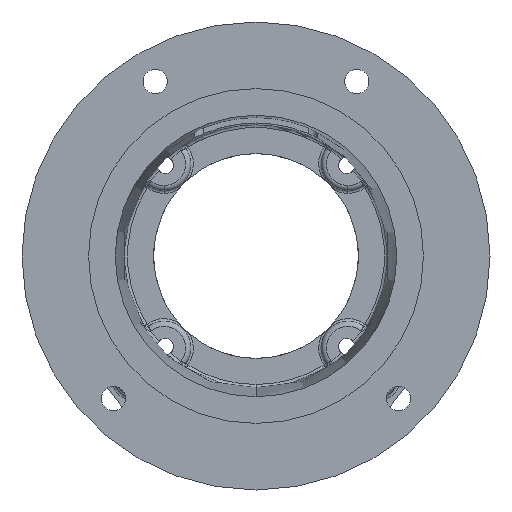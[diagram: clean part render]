
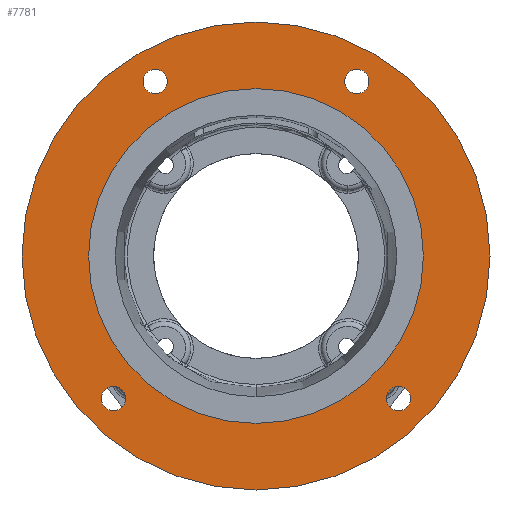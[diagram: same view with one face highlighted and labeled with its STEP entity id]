
A CAD part, front view. The second image highlights one B-rep face of the part: STEP entity #7781.
In plain terms, the highlighted planar face has unit normal (0, -1, 0).
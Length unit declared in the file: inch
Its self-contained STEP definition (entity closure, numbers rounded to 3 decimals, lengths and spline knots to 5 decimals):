
#98 = AXIS2_PLACEMENT_3D ( 'NONE', #10921, #5443, #11863 ) ;
#481 = EDGE_CURVE ( 'NONE', #4288, #10618, #7916, .T. ) ;
#601 = DIRECTION ( 'NONE',  ( 0., 0., -1. ) ) ;
#612 = CARTESIAN_POINT ( 'NONE',  ( 1.9375, 0., 3.35585 ) ) ;
#662 = EDGE_CURVE ( 'NONE', #7609, #9618, #11326, .T. ) ;
#704 = DIRECTION ( 'NONE',  ( 0., -1., 0. ) ) ;
#877 = CIRCLE ( 'NONE', #1867, 0.23438 ) ;
#1148 = CARTESIAN_POINT ( 'NONE',  ( 2.74004, 0., -2.74004 ) ) ;
#1320 = CARTESIAN_POINT ( 'NONE',  ( 2.74004, 0., -2.50566 ) ) ;
#1867 = AXIS2_PLACEMENT_3D ( 'NONE', #10616, #5131, #11540 ) ;
#1946 = VERTEX_POINT ( 'NONE', #2508 ) ;
#2005 = CARTESIAN_POINT ( 'NONE',  ( -2.74004, 0., -2.74004 ) ) ;
#2039 = CIRCLE ( 'NONE', #11536, 4.5 ) ;
#2061 = CIRCLE ( 'NONE', #4069, 0.23438 ) ;
#2066 = DIRECTION ( 'NONE',  ( 0., 0., -1. ) ) ;
#2311 = EDGE_LOOP ( 'NONE', ( #2607, #8343 ) ) ;
#2350 = FACE_BOUND ( 'NONE', #3852, .T. ) ;
#2458 = DIRECTION ( 'NONE',  ( 0., 0., -1. ) ) ;
#2502 = DIRECTION ( 'NONE',  ( 0., -1., 0. ) ) ;
#2508 = CARTESIAN_POINT ( 'NONE',  ( 0., 0., 4.5 ) ) ;
#2522 = CARTESIAN_POINT ( 'NONE',  ( 2.74004, 0., -2.74004 ) ) ;
#2607 = ORIENTED_EDGE ( 'NONE', *, *, #6028, .F. ) ;
#2724 = ORIENTED_EDGE ( 'NONE', *, *, #8567, .T. ) ;
#2781 = CARTESIAN_POINT ( 'NONE',  ( 0., 0., -4.5 ) ) ;
#2915 = DIRECTION ( 'NONE',  ( 0., -1., 0. ) ) ;
#2916 = FACE_BOUND ( 'NONE', #3012, .T. ) ;
#2928 = DIRECTION ( 'NONE',  ( 0., 0., -1. ) ) ;
#2980 = EDGE_LOOP ( 'NONE', ( #11834, #2724 ) ) ;
#2985 = CARTESIAN_POINT ( 'NONE',  ( -1.9375, 0., 3.35585 ) ) ;
#3012 = EDGE_LOOP ( 'NONE', ( #6327, #6673 ) ) ;
#3104 = EDGE_CURVE ( 'NONE', #8078, #6787, #8295, .T. ) ;
#3194 = EDGE_CURVE ( 'NONE', #8145, #9586, #8018, .T. ) ;
#3228 = CARTESIAN_POINT ( 'NONE',  ( 1.9375, 0., 3.35585 ) ) ;
#3485 = DIRECTION ( 'NONE',  ( 0., -1., 0. ) ) ;
#3621 = CIRCLE ( 'NONE', #9539, 3.2195 ) ;
#3700 = EDGE_CURVE ( 'NONE', #9618, #7609, #11726, .T. ) ;
#3789 = CIRCLE ( 'NONE', #4368, 0.23438 ) ;
#3852 = EDGE_LOOP ( 'NONE', ( #9351, #7876 ) ) ;
#4069 = AXIS2_PLACEMENT_3D ( 'NONE', #3228, #9627, #4131 ) ;
#4131 = DIRECTION ( 'NONE',  ( 0., 0., -1. ) ) ;
#4269 = VERTEX_POINT ( 'NONE', #8218 ) ;
#4288 = VERTEX_POINT ( 'NONE', #11662 ) ;
#4296 = CARTESIAN_POINT ( 'NONE',  ( 1.9375, 0., 3.59022 ) ) ;
#4368 = AXIS2_PLACEMENT_3D ( 'NONE', #8411, #2915, #9312 ) ;
#4478 = DIRECTION ( 'NONE',  ( 0., 0., -1. ) ) ;
#4784 = FACE_BOUND ( 'NONE', #11779, .T. ) ;
#4856 = CARTESIAN_POINT ( 'NONE',  ( 2.74004, 0., -2.97441 ) ) ;
#5131 = DIRECTION ( 'NONE',  ( 0., -1., 0. ) ) ;
#5279 = DIRECTION ( 'NONE',  ( 0., 1., 0. ) ) ;
#5443 = DIRECTION ( 'NONE',  ( 0., -1., 0. ) ) ;
#5449 = AXIS2_PLACEMENT_3D ( 'NONE', #2985, #2502, #2458 ) ;
#5890 = AXIS2_PLACEMENT_3D ( 'NONE', #1148, #7555, #2066 ) ;
#6028 = EDGE_CURVE ( 'NONE', #6787, #8078, #3789, .T. ) ;
#6105 = DIRECTION ( 'NONE',  ( 0., -1., 0. ) ) ;
#6119 = AXIS2_PLACEMENT_3D ( 'NONE', #6202, #704, #7117 ) ;
#6154 = AXIS2_PLACEMENT_3D ( 'NONE', #2522, #6708, #4478 ) ;
#6202 = CARTESIAN_POINT ( 'NONE',  ( 0., 0., 0. ) ) ;
#6327 = ORIENTED_EDGE ( 'NONE', *, *, #3700, .F. ) ;
#6673 = ORIENTED_EDGE ( 'NONE', *, *, #662, .F. ) ;
#6708 = DIRECTION ( 'NONE',  ( 0., -1., 0. ) ) ;
#6780 = DIRECTION ( 'NONE',  ( 0., -1., 0. ) ) ;
#6787 = VERTEX_POINT ( 'NONE', #8199 ) ;
#6818 = CARTESIAN_POINT ( 'NONE',  ( -1.9375, 0., 3.59022 ) ) ;
#6824 = VERTEX_POINT ( 'NONE', #2781 ) ;
#7095 = EDGE_CURVE ( 'NONE', #9586, #8145, #2061, .T. ) ;
#7117 = DIRECTION ( 'NONE',  ( 0., 0., -1. ) ) ;
#7170 = AXIS2_PLACEMENT_3D ( 'NONE', #2005, #8423, #2928 ) ;
#7221 = FACE_BOUND ( 'NONE', #2311, .T. ) ;
#7350 = EDGE_CURVE ( 'NONE', #6824, #1946, #7960, .T. ) ;
#7555 = DIRECTION ( 'NONE',  ( 0., -1., 0. ) ) ;
#7609 = VERTEX_POINT ( 'NONE', #1320 ) ;
#7721 = DIRECTION ( 'NONE',  ( 0., 0., -1. ) ) ;
#7781 = ADVANCED_FACE ( 'NONE', ( #7221, #2350, #2916, #4784, #11809, #9359 ), #8925, .F. ) ;
#7876 = ORIENTED_EDGE ( 'NONE', *, *, #3194, .F. ) ;
#7916 = CIRCLE ( 'NONE', #6119, 3.2195 ) ;
#7924 = AXIS2_PLACEMENT_3D ( 'NONE', #8885, #5279, #11692 ) ;
#7960 = CIRCLE ( 'NONE', #98, 4.5 ) ;
#8018 = CIRCLE ( 'NONE', #10961, 0.23438 ) ;
#8078 = VERTEX_POINT ( 'NONE', #6818 ) ;
#8087 = VERTEX_POINT ( 'NONE', #9585 ) ;
#8145 = VERTEX_POINT ( 'NONE', #4296 ) ;
#8199 = CARTESIAN_POINT ( 'NONE',  ( -1.9375, 0., 3.12147 ) ) ;
#8218 = CARTESIAN_POINT ( 'NONE',  ( -2.74004, 0., -2.97441 ) ) ;
#8295 = CIRCLE ( 'NONE', #5449, 0.23438 ) ;
#8334 = CIRCLE ( 'NONE', #7170, 0.23438 ) ;
#8343 = ORIENTED_EDGE ( 'NONE', *, *, #3104, .F. ) ;
#8411 = CARTESIAN_POINT ( 'NONE',  ( -1.9375, 0., 3.35585 ) ) ;
#8421 = ORIENTED_EDGE ( 'NONE', *, *, #10975, .F. ) ;
#8423 = DIRECTION ( 'NONE',  ( 0., -1., 0. ) ) ;
#8567 = EDGE_CURVE ( 'NONE', #1946, #6824, #2039, .T. ) ;
#8885 = CARTESIAN_POINT ( 'NONE',  ( -4.5, 0., 0. ) ) ;
#8925 = PLANE ( 'NONE',  #7924 ) ;
#8961 = CARTESIAN_POINT ( 'NONE',  ( 0., 0., 0. ) ) ;
#8989 = ORIENTED_EDGE ( 'NONE', *, *, #481, .F. ) ;
#9312 = DIRECTION ( 'NONE',  ( 0., 0., -1. ) ) ;
#9351 = ORIENTED_EDGE ( 'NONE', *, *, #7095, .F. ) ;
#9359 = FACE_OUTER_BOUND ( 'NONE', #2980, .T. ) ;
#9370 = CARTESIAN_POINT ( 'NONE',  ( 1.9375, 0., 3.12147 ) ) ;
#9539 = AXIS2_PLACEMENT_3D ( 'NONE', #11599, #6105, #601 ) ;
#9585 = CARTESIAN_POINT ( 'NONE',  ( -2.74004, 0., -2.50566 ) ) ;
#9586 = VERTEX_POINT ( 'NONE', #9370 ) ;
#9618 = VERTEX_POINT ( 'NONE', #4856 ) ;
#9627 = DIRECTION ( 'NONE',  ( 0., -1., 0. ) ) ;
#9883 = DIRECTION ( 'NONE',  ( 0., 0., -1. ) ) ;
#10058 = EDGE_CURVE ( 'NONE', #10618, #4288, #3621, .T. ) ;
#10616 = CARTESIAN_POINT ( 'NONE',  ( -2.74004, 0., -2.74004 ) ) ;
#10618 = VERTEX_POINT ( 'NONE', #10848 ) ;
#10848 = CARTESIAN_POINT ( 'NONE',  ( 0., 0., -3.2195 ) ) ;
#10921 = CARTESIAN_POINT ( 'NONE',  ( 0., 0., 0. ) ) ;
#10961 = AXIS2_PLACEMENT_3D ( 'NONE', #612, #6780, #7721 ) ;
#10975 = EDGE_CURVE ( 'NONE', #4269, #8087, #877, .T. ) ;
#11103 = EDGE_LOOP ( 'NONE', ( #11878, #8989 ) ) ;
#11319 = EDGE_CURVE ( 'NONE', #8087, #4269, #8334, .T. ) ;
#11326 = CIRCLE ( 'NONE', #5890, 0.23438 ) ;
#11533 = ORIENTED_EDGE ( 'NONE', *, *, #11319, .F. ) ;
#11536 = AXIS2_PLACEMENT_3D ( 'NONE', #8961, #3485, #9883 ) ;
#11540 = DIRECTION ( 'NONE',  ( 0., 0., -1. ) ) ;
#11599 = CARTESIAN_POINT ( 'NONE',  ( 0., 0., 0. ) ) ;
#11662 = CARTESIAN_POINT ( 'NONE',  ( 0., 0., 3.2195 ) ) ;
#11692 = DIRECTION ( 'NONE',  ( 0., 0., 1. ) ) ;
#11726 = CIRCLE ( 'NONE', #6154, 0.23438 ) ;
#11779 = EDGE_LOOP ( 'NONE', ( #8421, #11533 ) ) ;
#11809 = FACE_BOUND ( 'NONE', #11103, .T. ) ;
#11834 = ORIENTED_EDGE ( 'NONE', *, *, #7350, .T. ) ;
#11863 = DIRECTION ( 'NONE',  ( 0., 0., -1. ) ) ;
#11878 = ORIENTED_EDGE ( 'NONE', *, *, #10058, .F. ) ;
